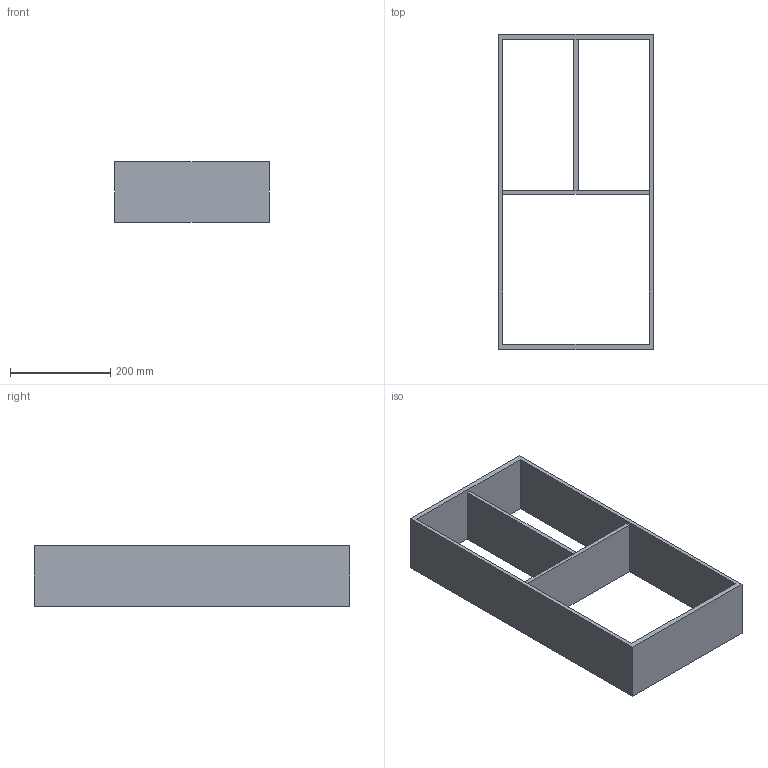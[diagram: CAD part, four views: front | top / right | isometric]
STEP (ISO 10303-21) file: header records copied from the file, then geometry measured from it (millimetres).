
FILE_DESCRIPTION (( 'STEP AP214' ), '1' );
FILE_NAME ('Vario Multi H120 NL650_B400_16 mm_Alu-Alu.step', '2010-10-08T09:48:19', ( 'grass' ), ( '' ), 'SwSTEP 2.0', 'SolidWorks 2010', '' );
FILE_SCHEMA (( 'AUTOMOTIVE_DESIGN' ));
Length unit declared in the file: millimetre
Products named in the file (1): Vario Multi H120 NL650_B400_16 mm_Alu-Alu
Bounding box: 308 x 629 x 120 mm (x, y, z)
Volume: 2518162.3 mm3; surface area: 614338.2 mm2
Topology: 1 solids, 1 shells, 18 faces, 48 edges, 32 vertices
Faces by surface type: plane 18
Entity records: 598 total; most frequent: CARTESIAN_POINT 99, ORIENTED_EDGE 96, DIRECTION 86, EDGE_CURVE 48, LINE 48, VECTOR 48, VERTEX_POINT 32, EDGE_LOOP 24
